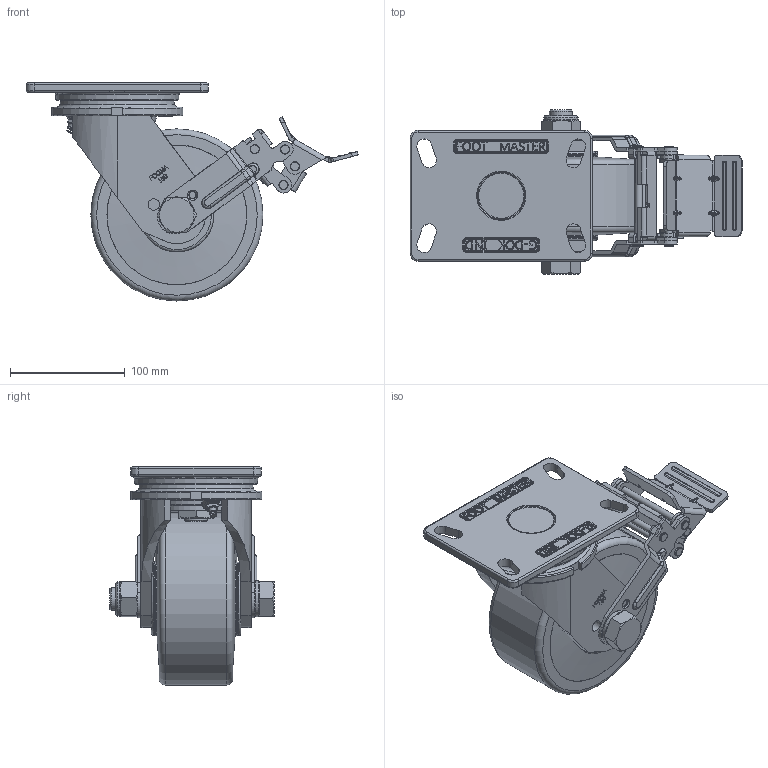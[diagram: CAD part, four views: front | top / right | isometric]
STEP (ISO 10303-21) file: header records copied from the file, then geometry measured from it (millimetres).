
FILE_DESCRIPTION(/* description */ (''),/* implementation_level */ '2;1');
FILE_NAME(/* name */ '\\192.168.10.38\지덕공유\1.기술연구소\손동원\GF-SERIES\3D\GF-150-BSF-MCD.stp',/* time_stamp */ '2023-07-25T14:02:23+09:00',/* author */ ('admin'),/* organization */ (''),/* preprocessor_version */ 'ST-DEVELOPER v18.1',/* originating_system */ 'Autodesk Inventor 2021',/* authorisation */ '');
FILE_SCHEMA (('AUTOMOTIVE_DESIGN { 1 0 10303 214 3 1 1 }'));
Length unit declared in the file: millimetre
Products named in the file (1): GF-150-BSF-MCD
Bounding box: 289.34 x 143 x 190 mm (x, y, z)
Volume: 1783202.5 mm3; surface area: 241051.7 mm2
Topology: 7 solids, 11 shells, 2021 faces, 5373 edges, 3418 vertices
Faces by surface type: plane 704, bspline 549, cylinder 543, torus 140, cone 69, sphere 16
Full cylindrical faces by diameter (mm): 4 x4, 6 x5, 6.2 x18, 7 x2, 8 x8, 9.7 x2, 10 x4, 20 x4, 20.2 x4, 24.9 x2, 30 x1, 34 x2, 43 x2, 59 x1, 60.9 x2, 64.519 x2, 150 x1
Entity records: 73812 total; most frequent: CARTESIAN_POINT 25886, ORIENTED_EDGE 10694, DIRECTION 8962, EDGE_CURVE 5347, VERTEX_POINT 3420, AXIS2_PLACEMENT_3D 3189, LINE 2584, VECTOR 2584
